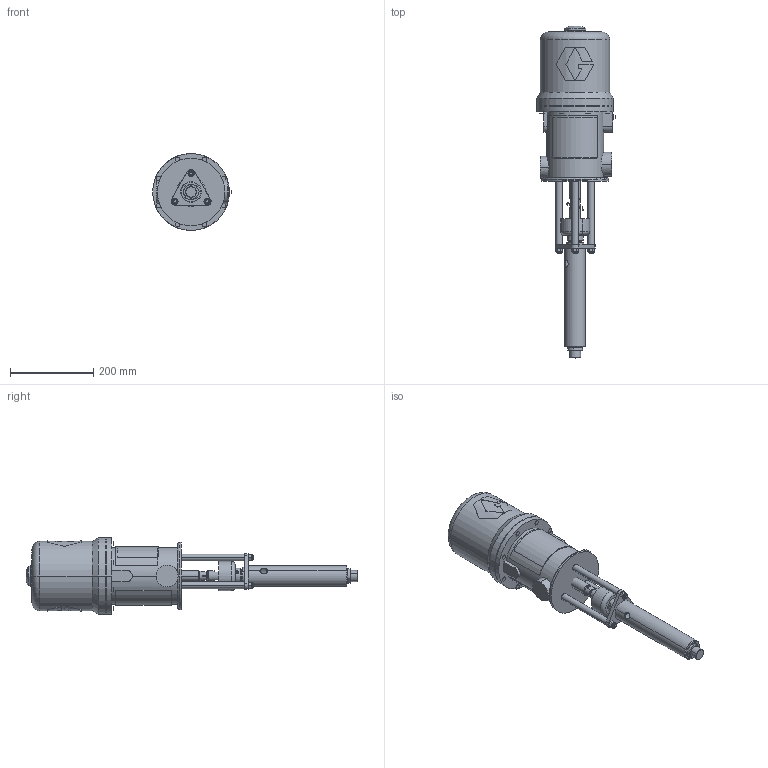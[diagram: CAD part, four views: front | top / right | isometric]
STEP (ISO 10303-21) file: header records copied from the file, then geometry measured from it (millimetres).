
FILE_DESCRIPTION((''),'2;1');
FILE_NAME('239140-EN-H_PRT','2022-06-21T14:21:00',('qufmd1'),(''),'CREO PARAMETRIC BY PTC INC, 2021072','CREO PARAMETRIC BY PTC INC, 2021072','');
FILE_SCHEMA(('CONFIG_CONTROL_DESIGN'));
Length unit declared in the file: inch
Products named in the file (1): 239140-EN-H_PRT
Bounding box: 188.59 x 797.13 x 184.15 mm (x, y, z)
Surface area: 429113.4 mm2 (no closed solid volume)
Topology: 0 solids, 48 shells, 332 faces, 925 edges, 616 vertices
Faces by surface type: plane 134, cylinder 93, cone 84, torus 19, bspline 2
Entity records: 11428 total; most frequent: CARTESIAN_POINT 3419, DIRECTION 1667, ORIENTED_EDGE 1474, EDGE_CURVE 925, AXIS2_PLACEMENT_3D 667, VERTEX_POINT 616, CIRCLE 337, VECTOR 333
